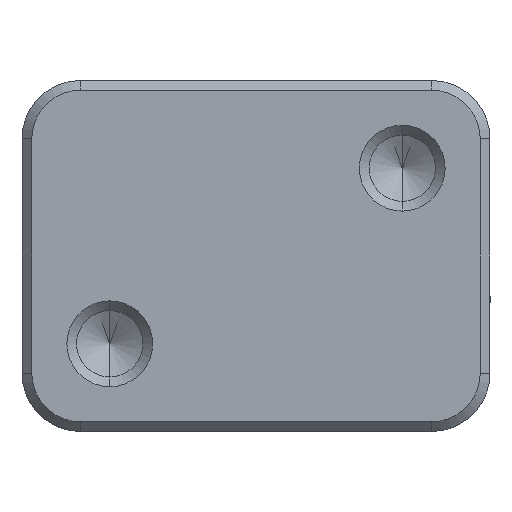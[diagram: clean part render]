
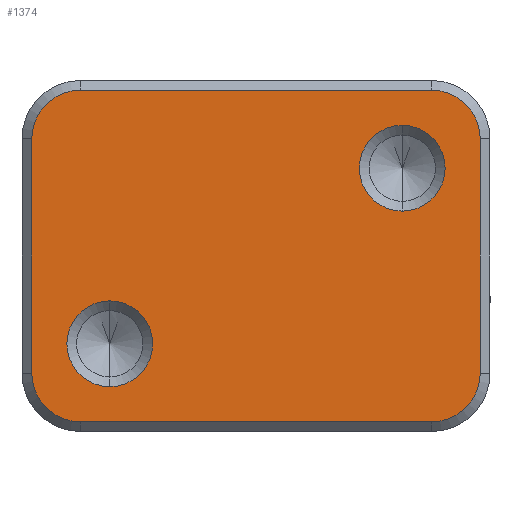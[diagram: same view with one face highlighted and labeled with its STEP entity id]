
A CAD part, front view. The second image highlights one B-rep face of the part: STEP entity #1374.
In plain terms, the highlighted planar face has unit normal (0, -1, 0).
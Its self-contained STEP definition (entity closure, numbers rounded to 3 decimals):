
#10 = AXIS2_PLACEMENT_3D ( 'NONE', #8380, #13110, #2643 ) ;
#185 = ORIENTED_EDGE ( 'NONE', *, *, #14488, .T. ) ;
#376 = CARTESIAN_POINT ( 'NONE',  ( 24., 0., 17.992 ) ) ;
#382 = VERTEX_POINT ( 'NONE', #7800 ) ;
#513 = CIRCLE ( 'NONE', #10, 4.999 ) ;
#816 = AXIS2_PLACEMENT_3D ( 'NONE', #11293, #9202, #4781 ) ;
#1065 = DIRECTION ( 'NONE',  ( 0., 0., 1. ) ) ;
#1265 = EDGE_CURVE ( 'NONE', #9570, #4155, #6490, .T. ) ;
#1279 = CARTESIAN_POINT ( 'NONE',  ( -23., 0., 11.993 ) ) ;
#1325 = VECTOR ( 'NONE', #4331, 1000. ) ;
#1374 = ADVANCED_FACE ( 'NONE', ( #3108, #7834, #4112 ), #10999, .T. ) ;
#1417 = CIRCLE ( 'NONE', #9569, 4.999 ) ;
#1434 = CARTESIAN_POINT ( 'NONE',  ( 15., 0., 4.593 ) ) ;
#2502 = VECTOR ( 'NONE', #11724, 1000. ) ;
#2643 = DIRECTION ( 'NONE',  ( 0., 0., 1. ) ) ;
#2696 = CIRCLE ( 'NONE', #10363, 4.4 ) ;
#2875 = DIRECTION ( 'NONE',  ( 0., -1., 0. ) ) ;
#2998 = AXIS2_PLACEMENT_3D ( 'NONE', #14539, #11026, #8407 ) ;
#3041 = ORIENTED_EDGE ( 'NONE', *, *, #5826, .T. ) ;
#3108 = FACE_OUTER_BOUND ( 'NONE', #8962, .T. ) ;
#3360 = CARTESIAN_POINT ( 'NONE',  ( 15., 0., 8.993 ) ) ;
#3472 = CARTESIAN_POINT ( 'NONE',  ( 18., 0., 11.993 ) ) ;
#3802 = DIRECTION ( 'NONE',  ( 0., 0., 1. ) ) ;
#3864 = EDGE_LOOP ( 'NONE', ( #14493, #14004 ) ) ;
#3868 = VERTEX_POINT ( 'NONE', #4864 ) ;
#4036 = ORIENTED_EDGE ( 'NONE', *, *, #4481, .T. ) ;
#4089 = VERTEX_POINT ( 'NONE', #6486 ) ;
#4112 = FACE_BOUND ( 'NONE', #6768, .T. ) ;
#4155 = VERTEX_POINT ( 'NONE', #1279 ) ;
#4331 = DIRECTION ( 'NONE',  ( 1., 0., 0. ) ) ;
#4386 = VECTOR ( 'NONE', #8427, 1000. ) ;
#4402 = LINE ( 'NONE', #14970, #1325 ) ;
#4481 = EDGE_CURVE ( 'NONE', #7890, #9570, #4651, .T. ) ;
#4651 = LINE ( 'NONE', #10689, #6516 ) ;
#4781 = DIRECTION ( 'NONE',  ( 0., 0., -1. ) ) ;
#4864 = CARTESIAN_POINT ( 'NONE',  ( -23., 0., -12.009 ) ) ;
#4869 = DIRECTION ( 'NONE',  ( 0., -1., 0. ) ) ;
#4930 = CIRCLE ( 'NONE', #7395, 4.4 ) ;
#5047 = CARTESIAN_POINT ( 'NONE',  ( 23., 0., -12.009 ) ) ;
#5048 = ORIENTED_EDGE ( 'NONE', *, *, #8009, .T. ) ;
#5064 = CARTESIAN_POINT ( 'NONE',  ( -15., 0., -9.009 ) ) ;
#5104 = ORIENTED_EDGE ( 'NONE', *, *, #5445, .T. ) ;
#5127 = DIRECTION ( 'NONE',  ( 1., 0., 0. ) ) ;
#5445 = EDGE_CURVE ( 'NONE', #4089, #9520, #4402, .T. ) ;
#5515 = EDGE_CURVE ( 'NONE', #12645, #382, #12710, .T. ) ;
#5622 = DIRECTION ( 'NONE',  ( 0., 0., -1. ) ) ;
#5710 = CIRCLE ( 'NONE', #2998, 4.999 ) ;
#5826 = EDGE_CURVE ( 'NONE', #382, #12645, #6457, .T. ) ;
#6031 = CARTESIAN_POINT ( 'NONE',  ( 23., 0., 17.992 ) ) ;
#6131 = DIRECTION ( 'NONE',  ( 0., -1., 0. ) ) ;
#6178 = CARTESIAN_POINT ( 'NONE',  ( -18., 0., 16.992 ) ) ;
#6457 = CIRCLE ( 'NONE', #11395, 4.4 ) ;
#6486 = CARTESIAN_POINT ( 'NONE',  ( -18., 0., -17.009 ) ) ;
#6490 = CIRCLE ( 'NONE', #8211, 4.999 ) ;
#6516 = VECTOR ( 'NONE', #15366, 1000. ) ;
#6707 = EDGE_CURVE ( 'NONE', #3868, #4089, #5710, .T. ) ;
#6768 = EDGE_LOOP ( 'NONE', ( #15164, #3041 ) ) ;
#6919 = LINE ( 'NONE', #11801, #2502 ) ;
#7137 = CARTESIAN_POINT ( 'NONE',  ( 18., 0., 16.992 ) ) ;
#7395 = AXIS2_PLACEMENT_3D ( 'NONE', #5064, #10007, #14605 ) ;
#7426 = DIRECTION ( 'NONE',  ( 0., 1., 0. ) ) ;
#7654 = EDGE_CURVE ( 'NONE', #4155, #3868, #6919, .T. ) ;
#7800 = CARTESIAN_POINT ( 'NONE',  ( 15., 0., 13.393 ) ) ;
#7834 = FACE_BOUND ( 'NONE', #3864, .T. ) ;
#7887 = CARTESIAN_POINT ( 'NONE',  ( -15., 0., -13.409 ) ) ;
#7890 = VERTEX_POINT ( 'NONE', #7137 ) ;
#8009 = EDGE_CURVE ( 'NONE', #9520, #11324, #513, .T. ) ;
#8165 = DIRECTION ( 'NONE',  ( 0., 1., 0. ) ) ;
#8211 = AXIS2_PLACEMENT_3D ( 'NONE', #12089, #6131, #3802 ) ;
#8345 = CARTESIAN_POINT ( 'NONE',  ( 18., 0., -17.009 ) ) ;
#8380 = CARTESIAN_POINT ( 'NONE',  ( 18., 0., -12.009 ) ) ;
#8407 = DIRECTION ( 'NONE',  ( 0., 0., 1. ) ) ;
#8427 = DIRECTION ( 'NONE',  ( 0., 0., 1. ) ) ;
#8572 = ORIENTED_EDGE ( 'NONE', *, *, #7654, .T. ) ;
#8714 = AXIS2_PLACEMENT_3D ( 'NONE', #376, #2875, #5127 ) ;
#8962 = EDGE_LOOP ( 'NONE', ( #12779, #8572, #9784, #5104, #5048, #9194, #185, #4036 ) ) ;
#9194 = ORIENTED_EDGE ( 'NONE', *, *, #13518, .T. ) ;
#9202 = DIRECTION ( 'NONE',  ( 0., 1., 0. ) ) ;
#9520 = VERTEX_POINT ( 'NONE', #8345 ) ;
#9569 = AXIS2_PLACEMENT_3D ( 'NONE', #3472, #4869, #1065 ) ;
#9570 = VERTEX_POINT ( 'NONE', #6178 ) ;
#9784 = ORIENTED_EDGE ( 'NONE', *, *, #6707, .T. ) ;
#10007 = DIRECTION ( 'NONE',  ( 0., 1., 0. ) ) ;
#10363 = AXIS2_PLACEMENT_3D ( 'NONE', #12149, #7426, #14412 ) ;
#10614 = CARTESIAN_POINT ( 'NONE',  ( -15., 0., -4.609 ) ) ;
#10689 = CARTESIAN_POINT ( 'NONE',  ( 24., 0., 16.992 ) ) ;
#10915 = EDGE_CURVE ( 'NONE', #12404, #14034, #4930, .T. ) ;
#10999 = PLANE ( 'NONE',  #8714 ) ;
#11026 = DIRECTION ( 'NONE',  ( 0., -1., 0. ) ) ;
#11293 = CARTESIAN_POINT ( 'NONE',  ( 15., 0., 8.993 ) ) ;
#11324 = VERTEX_POINT ( 'NONE', #5047 ) ;
#11395 = AXIS2_PLACEMENT_3D ( 'NONE', #3360, #8165, #5622 ) ;
#11487 = EDGE_CURVE ( 'NONE', #14034, #12404, #2696, .T. ) ;
#11677 = LINE ( 'NONE', #6031, #4386 ) ;
#11724 = DIRECTION ( 'NONE',  ( 0., 0., -1. ) ) ;
#11801 = CARTESIAN_POINT ( 'NONE',  ( -23., 0., 17.992 ) ) ;
#12089 = CARTESIAN_POINT ( 'NONE',  ( -18., 0., 11.993 ) ) ;
#12149 = CARTESIAN_POINT ( 'NONE',  ( -15., 0., -9.009 ) ) ;
#12404 = VERTEX_POINT ( 'NONE', #7887 ) ;
#12635 = VERTEX_POINT ( 'NONE', #14815 ) ;
#12645 = VERTEX_POINT ( 'NONE', #1434 ) ;
#12710 = CIRCLE ( 'NONE', #816, 4.4 ) ;
#12779 = ORIENTED_EDGE ( 'NONE', *, *, #1265, .T. ) ;
#13110 = DIRECTION ( 'NONE',  ( 0., -1., 0. ) ) ;
#13518 = EDGE_CURVE ( 'NONE', #11324, #12635, #11677, .T. ) ;
#14004 = ORIENTED_EDGE ( 'NONE', *, *, #11487, .T. ) ;
#14034 = VERTEX_POINT ( 'NONE', #10614 ) ;
#14412 = DIRECTION ( 'NONE',  ( 0., 0., -1. ) ) ;
#14488 = EDGE_CURVE ( 'NONE', #12635, #7890, #1417, .T. ) ;
#14493 = ORIENTED_EDGE ( 'NONE', *, *, #10915, .T. ) ;
#14539 = CARTESIAN_POINT ( 'NONE',  ( -18., 0., -12.009 ) ) ;
#14605 = DIRECTION ( 'NONE',  ( 0., 0., -1. ) ) ;
#14815 = CARTESIAN_POINT ( 'NONE',  ( 23., 0., 11.993 ) ) ;
#14970 = CARTESIAN_POINT ( 'NONE',  ( -195.7, 0., -17.009 ) ) ;
#15164 = ORIENTED_EDGE ( 'NONE', *, *, #5515, .T. ) ;
#15366 = DIRECTION ( 'NONE',  ( -1., 0., 0. ) ) ;
